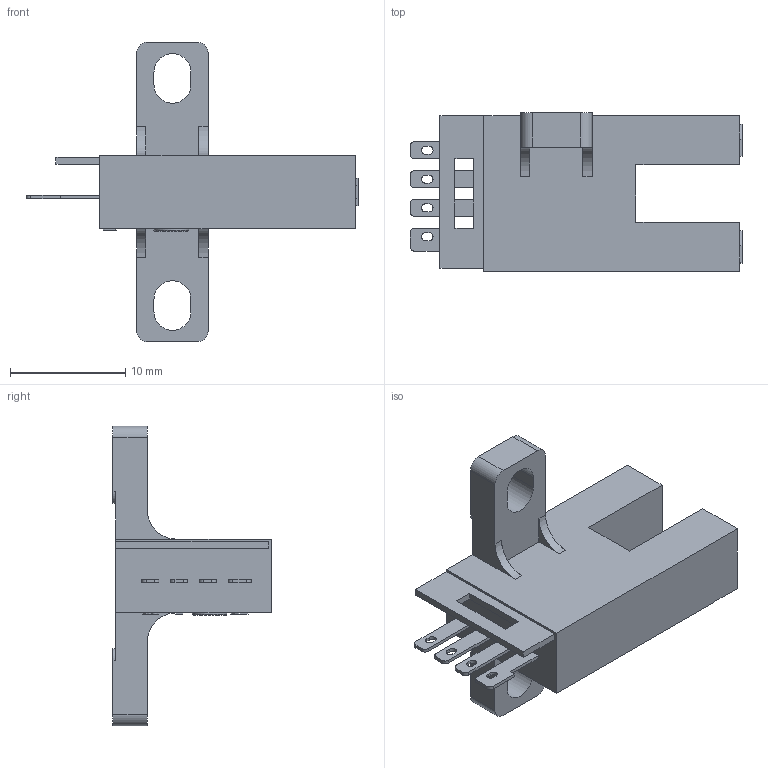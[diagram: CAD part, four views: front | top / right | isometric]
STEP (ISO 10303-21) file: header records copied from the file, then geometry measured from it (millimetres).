
FILE_DESCRIPTION (( 'STEP AP203' ), '1' );
FILE_NAME ('GE-ST672E.STEP', '2018-06-20T10:52:02', ( '' ), ( '' ), 'SwSTEP 2.0', 'SolidWorks 2016', '' );
FILE_SCHEMA (( 'CONFIG_CONTROL_DESIGN' ));
Length unit declared in the file: millimetre
Products named in the file (1): GE-ST672E
Bounding box: 28.8 x 13.75 x 26 mm (x, y, z)
Volume: 1934.9 mm3; surface area: 1759.7 mm2
Topology: 1 solids, 3 shells, 251 faces, 698 edges, 465 vertices
Faces by surface type: plane 182, bspline 35, cylinder 33, torus 1
Full cylindrical faces by diameter (mm): 3 x1
Entity records: 9572 total; most frequent: CARTESIAN_POINT 3200, ORIENTED_EDGE 1392, DIRECTION 1127, EDGE_CURVE 696, VECTOR 559, LINE 559, VERTEX_POINT 465, AXIS2_PLACEMENT_3D 284
